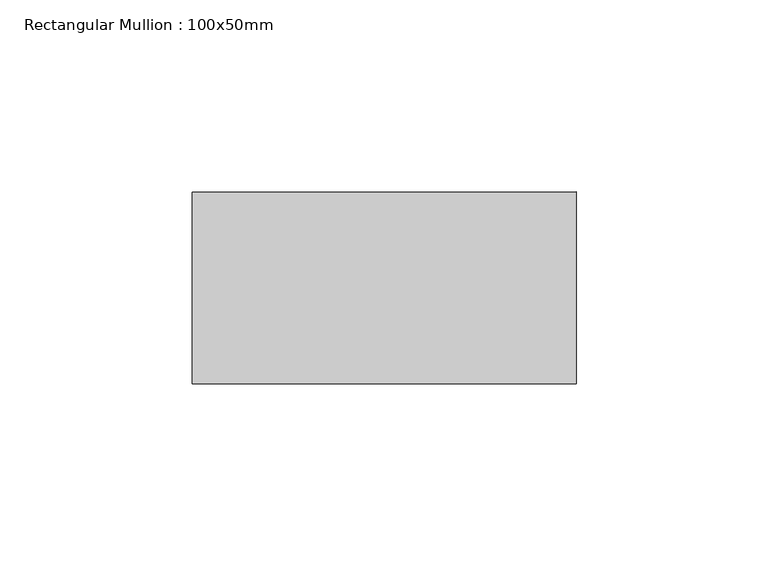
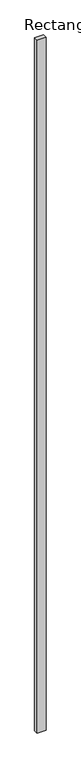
"""IFC4 building model written with IfcOpenShell, lengths in millimetres: member geometry, Rectangular Mullion : 100x50mm."""

from ifc_helpers import new_model, si_unit, frame, origin, place, context, project, spatial, polyline, outline, extrude, source, transform, mapped, element, save


def rectangular_mullion_100x50mm_d3cd7ed3(model_context):
    return source(origin(), model_context, "Body", "SweptSolid", [
        extrude(outline(polyline([(0.0, 25.0), (0.0, -25.0), (-100.0, -25.0), (-100.0, 25.0), (0.0, 25.0)])), frame((0.0, 0.0, -8219.5329371), z_axis=(0.0, 0.0, 1.0), x_axis=(1.0, 0.0, 0.0)), (0.0, 0.0, 1.0), 8219.5329371),
    ])


if __name__ == "__main__":
    model = new_model("IFC4")
    model_context = context("Model", 3, world=origin())
    ifc_project = project(units=[si_unit("LENGTHUNIT", "METRE", prefix="MILLI")], contexts=[model_context])
    site = spatial("IfcSite", under=ifc_project)
    building = spatial("IfcBuilding", under=site)
    placement = place(None, origin())
    rectangular_mullion_100x50mm_shape = rectangular_mullion_100x50mm_d3cd7ed3(model_context)
    element("IfcMember", 1, ObjectType="Rectangular Mullion : 100x50mm", at=placement, inside=building, context=model_context, shape_type="MappedRepresentation", body=[
        mapped(rectangular_mullion_100x50mm_shape, transform((0.0, 0.0, 0.0), x_axis=(1.0, 0.0, 0.0), y_axis=(0.0, 1.0, 0.0), z_axis=(0.0, 0.0, 1.0))),
    ])
    save(model, "model.ifc")
